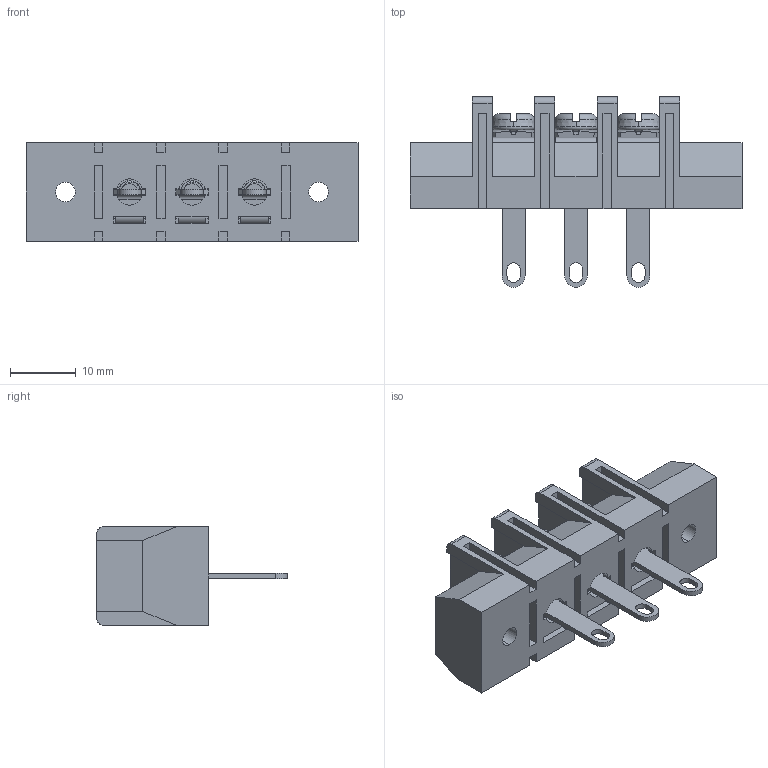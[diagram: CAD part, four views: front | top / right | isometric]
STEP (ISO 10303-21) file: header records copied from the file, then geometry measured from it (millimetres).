
FILE_DESCRIPTION((''),'2;1');
FILE_NAME('3PIN','2021-05-08T',('hanke'),(''),'CREO PARAMETRIC BY PTC INC, 2016260','CREO PARAMETRIC BY PTC INC, 2016260','');
FILE_SCHEMA(('CONFIG_CONTROL_DESIGN'));
Products named in the file (1): 3PIN
Bounding box: 50.5 x 29 x 15 mm (x, y, z)
Volume: 6259.1 mm3; surface area: 8403.1 mm2
Topology: 1 solids, 13 shells, 1345 faces, 3890 edges, 2537 vertices
Faces by surface type: plane 904, cylinder 228, bspline 171, cone 24, torus 18
Entity records: 67179 total; most frequent: CARTESIAN_POINT 33716, ORIENTED_EDGE 7768, DIRECTION 5812, EDGE_CURVE 3884, VERTEX_POINT 2537, VECTOR 2420, LINE 2420, AXIS2_PLACEMENT_3D 1696
